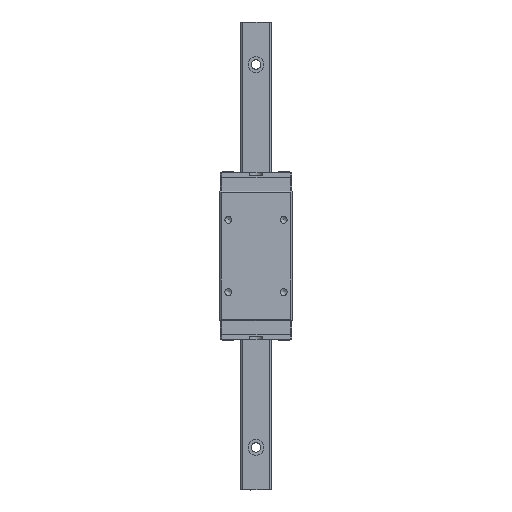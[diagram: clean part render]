
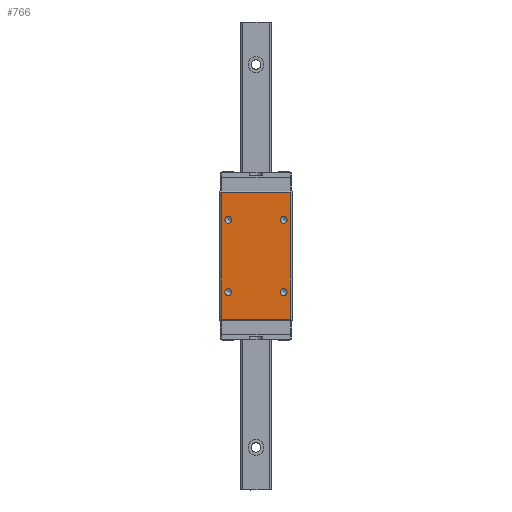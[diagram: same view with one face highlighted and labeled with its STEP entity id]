
A CAD part, top view. The second image highlights one B-rep face of the part: STEP entity #766.
In plain terms, the highlighted planar face has unit normal (0, 0, 1).
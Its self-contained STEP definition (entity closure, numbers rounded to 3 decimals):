
#766 = ADVANCED_FACE( '', ( #1604, #1605, #1606, #1607, #1608 ), #1609, .F. );
#1604 = FACE_OUTER_BOUND( '', #2427, .T. );
#1605 = FACE_BOUND( '', #2428, .T. );
#1606 = FACE_BOUND( '', #2429, .T. );
#1607 = FACE_BOUND( '', #2430, .T. );
#1608 = FACE_BOUND( '', #2431, .T. );
#1609 = PLANE( '', #2432 );
#2427 = EDGE_LOOP( '', ( #3615, #3616, #3617, #3618 ) );
#2428 = EDGE_LOOP( '', ( #3619 ) );
#2429 = EDGE_LOOP( '', ( #3620 ) );
#2430 = EDGE_LOOP( '', ( #3621 ) );
#2431 = EDGE_LOOP( '', ( #3622 ) );
#2432 = AXIS2_PLACEMENT_3D( '', #3623, #3624, #3625 );
#3615 = ORIENTED_EDGE( '', *, *, #6155, .T. );
#3616 = ORIENTED_EDGE( '', *, *, #6156, .T. );
#3617 = ORIENTED_EDGE( '', *, *, #6157, .F. );
#3618 = ORIENTED_EDGE( '', *, *, #6100, .T. );
#3619 = ORIENTED_EDGE( '', *, *, #6158, .T. );
#3620 = ORIENTED_EDGE( '', *, *, #6159, .T. );
#3621 = ORIENTED_EDGE( '', *, *, #6160, .T. );
#3622 = ORIENTED_EDGE( '', *, *, #6161, .T. );
#3623 = CARTESIAN_POINT( '', ( 16.4, -30.4, 24. ) );
#3624 = DIRECTION( '', ( 0., 0., -1. ) );
#3625 = DIRECTION( '', ( 0., -1., 0. ) );
#6100 = EDGE_CURVE( '', #7049, #7047, #7050, .T. );
#6155 = EDGE_CURVE( '', #7047, #7139, #7140, .T. );
#6156 = EDGE_CURVE( '', #7139, #7141, #7142, .T. );
#6157 = EDGE_CURVE( '', #7049, #7141, #7143, .T. );
#6158 = EDGE_CURVE( '', #7144, #7144, #7145, .T. );
#6159 = EDGE_CURVE( '', #7146, #7146, #7147, .T. );
#6160 = EDGE_CURVE( '', #7148, #7148, #7149, .T. );
#6161 = EDGE_CURVE( '', #7150, #7150, #7151, .T. );
#7047 = VERTEX_POINT( '', #8419 );
#7049 = VERTEX_POINT( '', #8422 );
#7050 = LINE( '', #8423, #8424 );
#7139 = VERTEX_POINT( '', #8565 );
#7140 = LINE( '', #8566, #8567 );
#7141 = VERTEX_POINT( '', #8568 );
#7142 = LINE( '', #8569, #8570 );
#7143 = LINE( '', #8571, #8572 );
#7144 = VERTEX_POINT( '', #8573 );
#7145 = CIRCLE( '', #8574, 1.621 );
#7146 = VERTEX_POINT( '', #8575 );
#7147 = CIRCLE( '', #8576, 1.621 );
#7148 = VERTEX_POINT( '', #8577 );
#7149 = CIRCLE( '', #8578, 1.621 );
#7150 = VERTEX_POINT( '', #8579 );
#7151 = CIRCLE( '', #8580, 1.621 );
#8419 = CARTESIAN_POINT( '', ( 16.4, -29.7, 24. ) );
#8422 = CARTESIAN_POINT( '', ( -16.4, -29.7, 24. ) );
#8423 = CARTESIAN_POINT( '', ( 16.4, -29.7, 24. ) );
#8424 = VECTOR( '', #10086, 1000. );
#8565 = CARTESIAN_POINT( '', ( 16.4, 29.7, 24. ) );
#8566 = CARTESIAN_POINT( '', ( 16.4, -30.4, 24. ) );
#8567 = VECTOR( '', #10142, 1000. );
#8568 = CARTESIAN_POINT( '', ( -16.4, 29.7, 24. ) );
#8569 = CARTESIAN_POINT( '', ( -16.4, 29.7, 24. ) );
#8570 = VECTOR( '', #10143, 1000. );
#8571 = CARTESIAN_POINT( '', ( -16.4, -30.4, 24. ) );
#8572 = VECTOR( '', #10144, 1000. );
#8573 = CARTESIAN_POINT( '', ( 14.621, -17., 24. ) );
#8574 = AXIS2_PLACEMENT_3D( '', #10145, #10146, #10147 );
#8575 = CARTESIAN_POINT( '', ( -11.379, -17., 24. ) );
#8576 = AXIS2_PLACEMENT_3D( '', #10148, #10149, #10150 );
#8577 = CARTESIAN_POINT( '', ( -11.379, 17., 24. ) );
#8578 = AXIS2_PLACEMENT_3D( '', #10151, #10152, #10153 );
#8579 = CARTESIAN_POINT( '', ( 14.621, 17., 24. ) );
#8580 = AXIS2_PLACEMENT_3D( '', #10154, #10155, #10156 );
#10086 = DIRECTION( '', ( 1., 0., 0. ) );
#10142 = DIRECTION( '', ( 0., 1., 0. ) );
#10143 = DIRECTION( '', ( -1., 0., 0. ) );
#10144 = DIRECTION( '', ( 0., 1., 0. ) );
#10145 = CARTESIAN_POINT( '', ( 13., -17., 24. ) );
#10146 = DIRECTION( '', ( 0., 0., -1. ) );
#10147 = DIRECTION( '', ( 1., 0., 0. ) );
#10148 = CARTESIAN_POINT( '', ( -13., -17., 24. ) );
#10149 = DIRECTION( '', ( 0., 0., -1. ) );
#10150 = DIRECTION( '', ( 1., 0., 0. ) );
#10151 = CARTESIAN_POINT( '', ( -13., 17., 24. ) );
#10152 = DIRECTION( '', ( 0., 0., -1. ) );
#10153 = DIRECTION( '', ( 1., 0., 0. ) );
#10154 = CARTESIAN_POINT( '', ( 13., 17., 24. ) );
#10155 = DIRECTION( '', ( 0., 0., -1. ) );
#10156 = DIRECTION( '', ( 1., 0., 0. ) );
